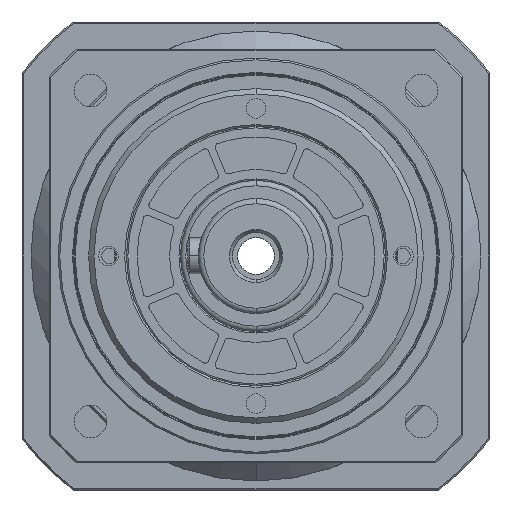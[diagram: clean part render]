
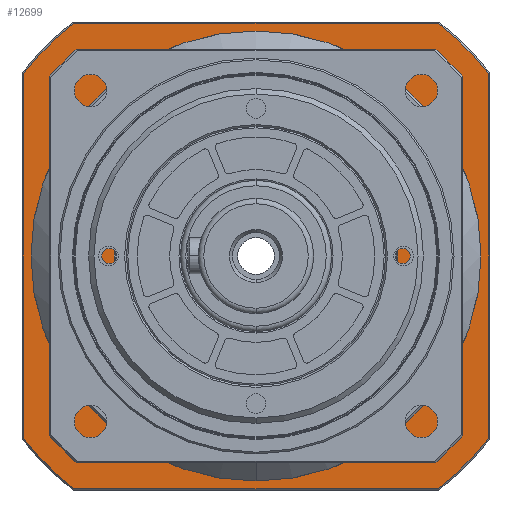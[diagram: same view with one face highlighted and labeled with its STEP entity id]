
A CAD part, left-side view. The second image highlights one B-rep face of the part: STEP entity #12699.
In plain terms, the highlighted planar face has unit normal (-1, 0, 0).
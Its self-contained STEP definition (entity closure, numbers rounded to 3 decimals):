
#1153 = AXIS2_PLACEMENT_3D ( 'NONE', #10600, #10598, #10596 ) ;
#2328 = EDGE_LOOP ( 'NONE', ( #16325, #16324, #16327, #16326, #16328, #16329, #16293, #16330 ) ) ;
#2496 = EDGE_LOOP ( 'NONE', ( #16323, #16322 ) ) ;
#3195 = FACE_BOUND ( 'NONE', #2496, .T. ) ;
#3293 = FACE_OUTER_BOUND ( 'NONE', #2328, .T. ) ;
#3772 = VERTEX_POINT ( 'NONE', #13248 ) ;
#3810 = VERTEX_POINT ( 'NONE', #13247 ) ;
#3843 = VERTEX_POINT ( 'NONE', #13213 ) ;
#3985 = VERTEX_POINT ( 'NONE', #12750 ) ;
#4224 = VERTEX_POINT ( 'NONE', #12595 ) ;
#4324 = VERTEX_POINT ( 'NONE', #13071 ) ;
#4365 = VERTEX_POINT ( 'NONE', #13027 ) ;
#5720 = DIRECTION ( 'NONE',  ( -1., 0., 0. ) ) ;
#5721 = CARTESIAN_POINT ( 'NONE',  ( 285.5, 0., 0. ) ) ;
#5728 = DIRECTION ( 'NONE',  ( 0., -1., 0. ) ) ;
#5770 = DIRECTION ( 'NONE',  ( 0., 0., -1. ) ) ;
#5842 = DIRECTION ( 'NONE',  ( 0., 0., -1. ) ) ;
#5844 = CARTESIAN_POINT ( 'NONE',  ( 285.5, 64.6, 0. ) ) ;
#5887 = CARTESIAN_POINT ( 'NONE',  ( 285.5, 39., -64.6 ) ) ;
#5914 = DIRECTION ( 'NONE',  ( 0., 0., -1. ) ) ;
#5915 = DIRECTION ( 'NONE',  ( -1., 0., 0. ) ) ;
#5916 = CARTESIAN_POINT ( 'NONE',  ( 285.5, 0., 0. ) ) ;
#6086 = DIRECTION ( 'NONE',  ( 0., 0., 1. ) ) ;
#6091 = CARTESIAN_POINT ( 'NONE',  ( 285.5, -64.6, 0. ) ) ;
#6117 = DIRECTION ( 'NONE',  ( 0., 0., -1. ) ) ;
#6118 = DIRECTION ( 'NONE',  ( -1., 0., 0. ) ) ;
#6120 = CARTESIAN_POINT ( 'NONE',  ( 285.5, 0., 0. ) ) ;
#6134 = DIRECTION ( 'NONE',  ( 0., 1., 0. ) ) ;
#6135 = CARTESIAN_POINT ( 'NONE',  ( 285.5, 39., 64.6 ) ) ;
#6146 = DIRECTION ( 'NONE',  ( 0., 0., -1. ) ) ;
#6147 = DIRECTION ( 'NONE',  ( -1., 0., 0. ) ) ;
#6148 = CARTESIAN_POINT ( 'NONE',  ( 285.5, 0., 0. ) ) ;
#8283 = VERTEX_POINT ( 'NONE', #10798 ) ;
#8306 = VERTEX_POINT ( 'NONE', #10959 ) ;
#8348 = VERTEX_POINT ( 'NONE', #10717 ) ;
#10554 = CARTESIAN_POINT ( 'NONE',  ( 285.5, 0., 0. ) ) ;
#10556 = DIRECTION ( 'NONE',  ( 1., 0., 0. ) ) ;
#10560 = DIRECTION ( 'NONE',  ( 0., 0., -1. ) ) ;
#10596 = DIRECTION ( 'NONE',  ( 0., 0., -1. ) ) ;
#10598 = DIRECTION ( 'NONE',  ( 1., 0., 0. ) ) ;
#10600 = CARTESIAN_POINT ( 'NONE',  ( 285.5, 39., 0. ) ) ;
#10602 = PLANE ( 'NONE',  #1153 ) ;
#10717 = CARTESIAN_POINT ( 'NONE',  ( 285.5, 0., 39.4 ) ) ;
#10798 = CARTESIAN_POINT ( 'NONE',  ( 285.5, -50.668, 64.6 ) ) ;
#10959 = CARTESIAN_POINT ( 'NONE',  ( 285.5, -64.6, 50.668 ) ) ;
#11002 = CARTESIAN_POINT ( 'NONE',  ( 285.5, 0., 0. ) ) ;
#11004 = DIRECTION ( 'NONE',  ( 1., 0., 0. ) ) ;
#11006 = DIRECTION ( 'NONE',  ( 0., 0., -1. ) ) ;
#12595 = CARTESIAN_POINT ( 'NONE',  ( 285.5, 50.668, -64.6 ) ) ;
#12699 = ADVANCED_FACE ( 'NONE', ( #3195, #3293 ), #10602, .F. ) ;
#12750 = CARTESIAN_POINT ( 'NONE',  ( 285.5, 0., -39.4 ) ) ;
#13027 = CARTESIAN_POINT ( 'NONE',  ( 285.5, 64.6, -50.668 ) ) ;
#13071 = CARTESIAN_POINT ( 'NONE',  ( 285.5, -50.668, -64.6 ) ) ;
#13213 = CARTESIAN_POINT ( 'NONE',  ( 285.5, 50.668, 64.6 ) ) ;
#13247 = CARTESIAN_POINT ( 'NONE',  ( 285.5, 64.6, 50.668 ) ) ;
#13248 = CARTESIAN_POINT ( 'NONE',  ( 285.5, -64.6, -50.668 ) ) ;
#13498 = VECTOR ( 'NONE', #5728, 1000. ) ;
#13499 = CIRCLE ( 'NONE', #14361, 39.4 ) ;
#13655 = CIRCLE ( 'NONE', #14386, 39.4 ) ;
#13818 = CIRCLE ( 'NONE', #14297, 82.1 ) ;
#13845 = LINE ( 'NONE', #6135, #13949 ) ;
#13846 = CIRCLE ( 'NONE', #14357, 82.1 ) ;
#13849 = CIRCLE ( 'NONE', #14290, 82.1 ) ;
#13949 = VECTOR ( 'NONE', #6134, 1000. ) ;
#13955 = CIRCLE ( 'NONE', #14356, 82.1 ) ;
#14014 = LINE ( 'NONE', #6091, #14016 ) ;
#14016 = VECTOR ( 'NONE', #6086, 1000. ) ;
#14161 = LINE ( 'NONE', #5887, #13498 ) ;
#14167 = VECTOR ( 'NONE', #5842, 1000. ) ;
#14168 = LINE ( 'NONE', #5844, #14167 ) ;
#14290 = AXIS2_PLACEMENT_3D ( 'NONE', #5916, #5915, #5914 ) ;
#14297 = AXIS2_PLACEMENT_3D ( 'NONE', #5721, #5720, #5770 ) ;
#14356 = AXIS2_PLACEMENT_3D ( 'NONE', #6120, #6118, #6117 ) ;
#14357 = AXIS2_PLACEMENT_3D ( 'NONE', #6148, #6147, #6146 ) ;
#14361 = AXIS2_PLACEMENT_3D ( 'NONE', #11002, #11004, #11006 ) ;
#14386 = AXIS2_PLACEMENT_3D ( 'NONE', #10554, #10556, #10560 ) ;
#16293 = ORIENTED_EDGE ( 'NONE', *, *, #17498, .T. ) ;
#16322 = ORIENTED_EDGE ( 'NONE', *, *, #17484, .T. ) ;
#16323 = ORIENTED_EDGE ( 'NONE', *, *, #17448, .T. ) ;
#16324 = ORIENTED_EDGE ( 'NONE', *, *, #17681, .T. ) ;
#16325 = ORIENTED_EDGE ( 'NONE', *, *, #17690, .T. ) ;
#16326 = ORIENTED_EDGE ( 'NONE', *, *, #17706, .T. ) ;
#16327 = ORIENTED_EDGE ( 'NONE', *, *, #17703, .T. ) ;
#16328 = ORIENTED_EDGE ( 'NONE', *, *, #17559, .T. ) ;
#16329 = ORIENTED_EDGE ( 'NONE', *, *, #17502, .T. ) ;
#16330 = ORIENTED_EDGE ( 'NONE', *, *, #17495, .T. ) ;
#17448 = EDGE_CURVE ( 'NONE', #8348, #3985, #13655, .T. ) ;
#17484 = EDGE_CURVE ( 'NONE', #3985, #8348, #13499, .T. ) ;
#17495 = EDGE_CURVE ( 'NONE', #3843, #3810, #13846, .T. ) ;
#17498 = EDGE_CURVE ( 'NONE', #8283, #3843, #13845, .T. ) ;
#17502 = EDGE_CURVE ( 'NONE', #8306, #8283, #13955, .T. ) ;
#17559 = EDGE_CURVE ( 'NONE', #3772, #8306, #14014, .T. ) ;
#17681 = EDGE_CURVE ( 'NONE', #4365, #4224, #13818, .T. ) ;
#17690 = EDGE_CURVE ( 'NONE', #3810, #4365, #14168, .T. ) ;
#17703 = EDGE_CURVE ( 'NONE', #4224, #4324, #14161, .T. ) ;
#17706 = EDGE_CURVE ( 'NONE', #4324, #3772, #13849, .T. ) ;
